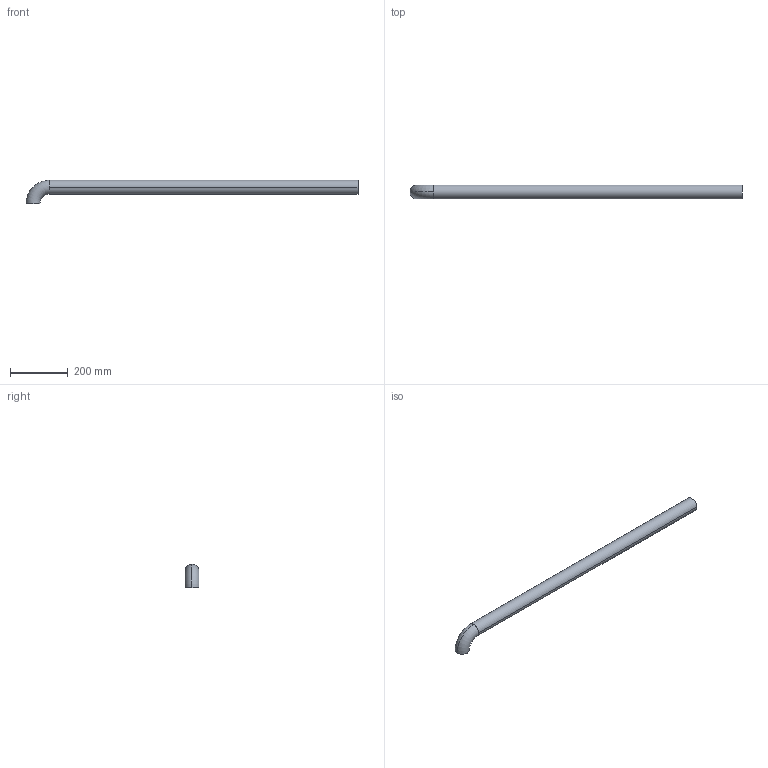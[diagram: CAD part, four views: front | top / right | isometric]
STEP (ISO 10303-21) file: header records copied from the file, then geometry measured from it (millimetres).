
FILE_DESCRIPTION (( 'STEP AP214' ), '1' );
FILE_NAME ('CCJ029-REP.351 - MAIN COURANTE EXCROISSANCE FILE 5.STEP', '2025-11-04T10:49:07', ( '' ), ( '' ), 'SwSTEP 2.0', 'SolidWorks 2021', '' );
FILE_SCHEMA (( 'AUTOMOTIVE_DESIGN' ));
Length unit declared in the file: millimetre
Products named in the file (1): CCJ029-REP.351 - MAIN COURANTE EXCROISSANCE FILE 5
Bounding box: 1151.15 x 48.3 x 81.15 mm (x, y, z)
Volume: 417099.2 mm3; surface area: 334398.8 mm2
Topology: 1 solids, 1 shells, 10 faces, 24 edges, 16 vertices
Faces by surface type: torus 4, cylinder 4, plane 2
Entity records: 346 total; most frequent: DIRECTION 66, CARTESIAN_POINT 51, ORIENTED_EDGE 48, AXIS2_PLACEMENT_3D 31, EDGE_CURVE 24, CIRCLE 20, VERTEX_POINT 16, EDGE_LOOP 12
